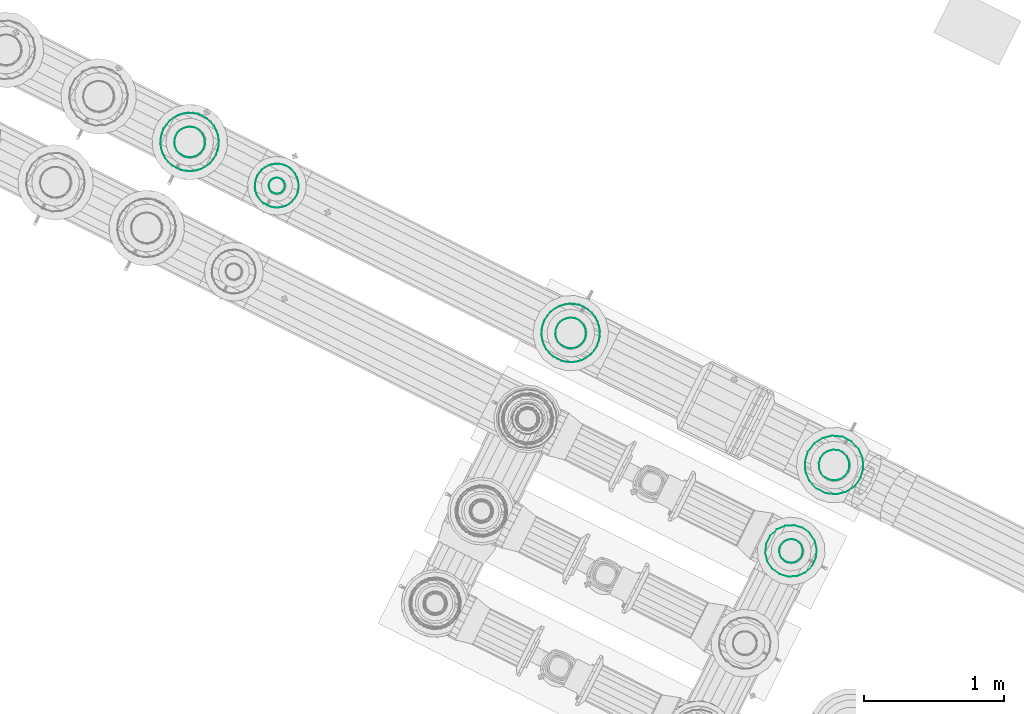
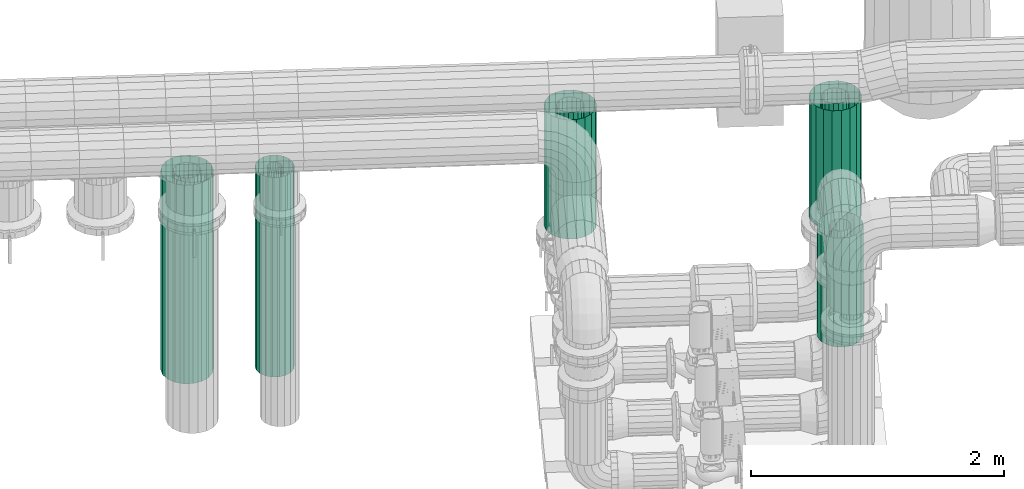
# One storey, part 14 of 152: 5 flow segments.
"""IFC2X3 building model written with IfcOpenShell, lengths in metres."""

from ifc_helpers import new_model, si_unit, derived_unit, direction, frame, origin, place, context, subcontext, project, spatial, face_set, surface_model, source, transform, mapped, material, type_object, type_shapes, element, save


model = new_model("IFC2X3")

# Units and contexts
model_context = context("Model", 3, precision=5.2338327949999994e-05, world=origin(), true_north=direction((0.0, 1.0)))
body_context = subcontext(model_context, "Body", "Model", "MODEL_VIEW")
ifc_project = project(units=[si_unit("LENGTHUNIT", "METRE"), si_unit("AREAUNIT", "SQUARE_METRE"), si_unit("VOLUMEUNIT", "CUBIC_METRE"), si_unit("MASSUNIT", "GRAM", prefix="KILO"), si_unit("PLANEANGLEUNIT", "RADIAN"), derived_unit("THERMALTRANSMITTANCEUNIT", [(si_unit("MASSUNIT", "GRAM", prefix="KILO"), 1), (si_unit("THERMODYNAMICTEMPERATUREUNIT", "KELVIN"), -1), (si_unit("TIMEUNIT", "SECOND"), -3)])], contexts=[model_context])

# Site, building, storey
site_placement = place(None, frame((0.0, 0.0, 0.0), z_axis=(0.0, 0.0, 1.0), x_axis=(0.8939966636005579, -0.4480736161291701, 0.0)))
site = spatial("IfcSite", under=ifc_project, at=site_placement, Name="Default", CompositionType="ELEMENT")
building_placement = place(site_placement, origin())
building = spatial("IfcBuilding", under=site, at=building_placement, CompositionType="ELEMENT")
storey_placement = place(building_placement, frame((0.0, 0.0, 2.7499999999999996)))
storey = spatial("IfcBuildingStorey", under=building, at=storey_placement, Name="1. Obergeschoss", CompositionType="ELEMENT", Elevation=2.7499999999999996)

# Flow segments
ifc_material_1 = material(Name="IfcSurfaceStyle #1741")
distribution_element_type_1 = type_object("IfcDistributionElementType", Name="Stahlrohr nach DIN 2448 224992:Stahlrohr nach DIN 2448 224992", material=ifc_material_1)
shared_shape_1 = source(origin(), body_context, "Body", "SurfaceModel", [
    surface_model("IfcFaceBasedSurfaceModel", [(9.516220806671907, 8.012208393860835, 4.223028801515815), (9.522827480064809, 7.974740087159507, 4.223028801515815), (9.522827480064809, 7.974740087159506, 5.375028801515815), (9.516220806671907, 8.012208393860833, 5.375028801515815), (9.541850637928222, 7.941791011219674, 4.223028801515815), (9.541850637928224, 7.941791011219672, 5.375028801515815), (9.570995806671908, 7.91733531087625, 4.223028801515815), (9.570995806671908, 7.917335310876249, 5.375028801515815), (9.606747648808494, 7.904322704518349, 4.223028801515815), (9.606747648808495, 7.904322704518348, 5.375028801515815), (9.644793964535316, 7.904322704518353, 4.223028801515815), (9.644793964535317, 7.904322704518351, 5.375028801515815), (9.680545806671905, 7.917335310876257, 4.223028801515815), (9.680545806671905, 7.917335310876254, 5.375028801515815), (9.70969097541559, 7.941791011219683, 4.223028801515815), (9.70969097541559, 7.94179101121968, 5.375028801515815), (9.728714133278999, 7.974740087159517, 4.223028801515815), (9.728714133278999, 7.974740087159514, 5.375028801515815), (9.735320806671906, 8.012208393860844, 4.223028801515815), (9.735320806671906, 8.012208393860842, 5.375028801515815), (9.728714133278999, 8.049676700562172, 4.223028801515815), (9.728714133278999, 8.049676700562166, 5.375028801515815), (9.709690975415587, 8.082625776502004, 4.223028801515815), (9.709690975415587, 8.082625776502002, 5.375028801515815), (9.680545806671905, 8.107081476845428, 4.223028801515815), (9.680545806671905, 8.107081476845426, 5.375028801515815), (9.644793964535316, 8.120094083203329, 4.223028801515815), (9.644793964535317, 8.120094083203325, 5.375028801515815), (9.606747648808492, 8.120094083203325, 4.223028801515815), (9.606747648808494, 8.120094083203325, 5.375028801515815), (9.570995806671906, 8.107081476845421, 4.223028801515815), (9.570995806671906, 8.10708147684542, 5.375028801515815), (9.541850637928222, 8.082625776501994, 4.223028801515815), (9.541850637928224, 8.082625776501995, 5.375028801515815), (9.52282748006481, 8.049676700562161, 4.223028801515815), (9.522827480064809, 8.04967670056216, 5.375028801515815), (9.416220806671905, 8.012208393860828, 4.223028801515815), (9.428858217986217, 7.940538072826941, 4.223028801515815), (9.428858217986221, 7.940538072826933, 5.375028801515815), (9.416220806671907, 8.01220839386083, 5.375028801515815), (9.465246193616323, 7.877512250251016, 4.223028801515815), (9.465246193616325, 7.877512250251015, 5.375028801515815), (9.520995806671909, 7.8307327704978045, 4.223028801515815), (9.520995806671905, 7.830732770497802, 5.375028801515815), (9.589382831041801, 7.805841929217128, 4.223028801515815), (9.589382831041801, 7.805841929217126, 5.375028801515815), (9.66215878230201, 7.805841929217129, 4.223028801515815), (9.66215878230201, 7.805841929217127, 5.375028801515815), (9.730545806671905, 7.8307327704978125, 4.223028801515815), (9.730545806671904, 7.83073277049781, 5.375028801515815), (9.786295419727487, 7.877512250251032, 4.223028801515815), (9.786295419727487, 7.877512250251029, 5.375028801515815), (9.822683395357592, 7.940538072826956, 4.223028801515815), (9.822683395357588, 7.9405380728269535, 5.375028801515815), (9.835320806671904, 8.012208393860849, 4.223028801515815), (9.835320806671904, 8.012208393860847, 5.375028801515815), (9.822683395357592, 8.083878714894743, 4.223028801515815), (9.822683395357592, 8.08387871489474, 5.375028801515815), (9.786295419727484, 8.146904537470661, 4.223028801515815), (9.786295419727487, 8.146904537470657, 5.375028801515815), (9.730545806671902, 8.193684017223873, 4.223028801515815), (9.730545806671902, 8.193684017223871, 5.375028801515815), (9.66215878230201, 8.21857485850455, 4.223028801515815), (9.66215878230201, 8.218574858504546, 5.375028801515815), (9.589382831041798, 8.218574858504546, 4.223028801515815), (9.589382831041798, 8.218574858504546, 5.375028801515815), (9.520995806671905, 8.193684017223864, 4.223028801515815), (9.520995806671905, 8.193684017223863, 5.375028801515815), (9.465246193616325, 8.146904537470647, 4.223028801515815), (9.465246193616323, 8.146904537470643, 5.375028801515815), (9.42885821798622, 8.083878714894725, 4.223028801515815), (9.42885821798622, 8.083878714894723, 5.375028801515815)], [face_set([[[0, 1, 2, 3]], [[1, 4, 5, 2]], [[4, 6, 7, 5]], [[6, 8, 9, 7]], [[8, 10, 11, 9]], [[10, 12, 13, 11]], [[12, 14, 15, 13]], [[14, 16, 17, 15]], [[16, 18, 19, 17]], [[18, 20, 21, 19]], [[20, 22, 23, 21]], [[22, 24, 25, 23]], [[24, 26, 27, 25]], [[26, 28, 29, 27]], [[28, 30, 31, 29]], [[30, 32, 33, 31]], [[32, 34, 35, 33]], [[34, 0, 3, 35]], [[36, 37, 38, 39]], [[37, 40, 41, 38]], [[40, 42, 43, 41]], [[42, 44, 45, 43]], [[44, 46, 47, 45]], [[46, 48, 49, 47]], [[48, 50, 51, 49]], [[50, 52, 53, 51]], [[52, 54, 55, 53]], [[54, 56, 57, 55]], [[56, 58, 59, 57]], [[58, 60, 61, 59]], [[60, 62, 63, 61]], [[62, 64, 65, 63]], [[64, 66, 67, 65]], [[66, 68, 69, 67]], [[68, 70, 71, 69]], [[70, 36, 39, 71]]])]),
])
type_shapes(distribution_element_type_1, [shared_shape_1])
flow_segment_1_placement = place(storey_placement, frame((0.0, 0.0, -2.7499999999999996)))
element("IfcFlowSegment", 1, at=flow_segment_1_placement, inside=storey, type_object=distribution_element_type_1, material=ifc_material_1, Name="Stahlrohr nach DIN 2448", ObjectType="Stahlrohr nach DIN 2448", context=body_context, shape_type="MappedRepresentation", body=[
    mapped(shared_shape_1, transform((0.0, 0.0, 0.0), scale=1.0)),
])
distribution_element_type_2 = type_object("IfcDistributionElementType", Name="Stahlrohr nach DIN 2448 225273:Stahlrohr nach DIN 2448 225273", material=ifc_material_1)
shared_shape_2 = source(origin(), body_context, "Body", "SurfaceModel", [
    surface_model("IfcFaceBasedSurfaceModel", [(11.616264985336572, 8.012208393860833, 4.223028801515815), (11.622871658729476, 7.974740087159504, 4.223028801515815), (11.622871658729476, 7.974740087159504, 5.376028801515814), (11.616264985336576, 8.012208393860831, 5.376028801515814), (11.64189481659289, 7.941791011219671, 4.223028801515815), (11.641894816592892, 7.94179101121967, 5.376028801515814), (11.671039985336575, 7.917335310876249, 4.223028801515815), (11.671039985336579, 7.917335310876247, 5.376028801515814), (11.706791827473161, 7.904322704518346, 4.223028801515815), (11.706791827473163, 7.904322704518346, 5.376028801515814), (11.744838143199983, 7.904322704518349, 4.223028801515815), (11.744838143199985, 7.904322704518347, 5.376028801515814), (11.780589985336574, 7.917335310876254, 4.223028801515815), (11.780589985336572, 7.917335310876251, 5.376028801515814), (11.80973515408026, 7.94179101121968, 4.223028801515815), (11.809735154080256, 7.941791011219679, 5.376028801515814), (11.82875831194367, 7.974740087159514, 4.223028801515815), (11.82875831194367, 7.974740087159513, 5.376028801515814), (11.835364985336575, 8.012208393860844, 4.223028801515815), (11.835364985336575, 8.01220839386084, 5.376028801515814), (11.82875831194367, 8.04967670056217, 4.223028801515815), (11.82875831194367, 8.049676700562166, 5.376028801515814), (11.809735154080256, 8.082625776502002, 4.223028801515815), (11.809735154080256, 8.082625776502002, 5.376028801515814), (11.780589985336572, 8.107081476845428, 4.223028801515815), (11.780589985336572, 8.107081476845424, 5.376028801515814), (11.744838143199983, 8.120094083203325, 4.223028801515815), (11.744838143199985, 8.120094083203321, 5.376028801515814), (11.706791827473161, 8.120094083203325, 4.223028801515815), (11.706791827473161, 8.120094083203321, 5.376028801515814), (11.671039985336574, 8.107081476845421, 4.223028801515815), (11.671039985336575, 8.10708147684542, 5.376028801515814), (11.641894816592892, 8.082625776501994, 4.223028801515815), (11.641894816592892, 8.082625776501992, 5.376028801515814), (11.62287165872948, 8.04967670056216, 4.223028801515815), (11.62287165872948, 8.049676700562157, 5.376028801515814), (11.516264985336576, 8.012208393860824, 4.223028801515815), (11.528902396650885, 7.940538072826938, 4.223028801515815), (11.528902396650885, 7.940538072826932, 5.376028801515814), (11.516264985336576, 8.012208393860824, 5.376028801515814), (11.565290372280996, 7.877512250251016, 4.223028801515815), (11.565290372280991, 7.877512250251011, 5.376028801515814), (11.621039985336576, 7.830732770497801, 4.223028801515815), (11.621039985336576, 7.8307327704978, 5.376028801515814), (11.68942700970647, 7.805841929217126, 4.223028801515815), (11.689427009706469, 7.805841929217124, 5.376028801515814), (11.76220296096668, 7.805841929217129, 4.223028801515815), (11.762202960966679, 7.805841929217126, 5.376028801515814), (11.830589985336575, 7.830732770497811, 4.223028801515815), (11.830589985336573, 7.83073277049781, 5.376028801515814), (11.886339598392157, 7.877512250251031, 4.223028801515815), (11.886339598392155, 7.877512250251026, 5.376028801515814), (11.922727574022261, 7.940538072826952, 4.223028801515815), (11.92272757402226, 7.940538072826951, 5.376028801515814), (11.935364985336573, 8.012208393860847, 4.223028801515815), (11.935364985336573, 8.012208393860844, 5.376028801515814), (11.922727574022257, 8.083878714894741, 4.223028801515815), (11.922727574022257, 8.083878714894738, 5.376028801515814), (11.886339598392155, 8.146904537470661, 4.223028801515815), (11.886339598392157, 8.14690453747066, 5.376028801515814), (11.83058998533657, 8.193684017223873, 4.223028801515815), (11.83058998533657, 8.193684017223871, 5.376028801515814), (11.76220296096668, 8.218574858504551, 4.223028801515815), (11.762202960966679, 8.218574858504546, 5.376028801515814), (11.689427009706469, 8.218574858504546, 4.223028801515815), (11.689427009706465, 8.218574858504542, 5.376028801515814), (11.621039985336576, 8.193684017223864, 4.223028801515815), (11.621039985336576, 8.193684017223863, 5.376028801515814), (11.565290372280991, 8.146904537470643, 4.223028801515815), (11.56529037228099, 8.146904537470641, 5.376028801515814), (11.52890239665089, 8.083878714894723, 4.223028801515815), (11.528902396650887, 8.08387871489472, 5.376028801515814)], [face_set([[[0, 1, 2, 3]], [[1, 4, 5, 2]], [[4, 6, 7, 5]], [[6, 8, 9, 7]], [[8, 10, 11, 9]], [[10, 12, 13, 11]], [[12, 14, 15, 13]], [[14, 16, 17, 15]], [[16, 18, 19, 17]], [[18, 20, 21, 19]], [[20, 22, 23, 21]], [[22, 24, 25, 23]], [[24, 26, 27, 25]], [[26, 28, 29, 27]], [[28, 30, 31, 29]], [[30, 32, 33, 31]], [[32, 34, 35, 33]], [[34, 0, 3, 35]], [[36, 37, 38, 39]], [[37, 40, 41, 38]], [[40, 42, 43, 41]], [[42, 44, 45, 43]], [[44, 46, 47, 45]], [[46, 48, 49, 47]], [[48, 50, 51, 49]], [[50, 52, 53, 51]], [[52, 54, 55, 53]], [[54, 56, 57, 55]], [[56, 58, 59, 57]], [[58, 60, 61, 59]], [[60, 62, 63, 61]], [[62, 64, 65, 63]], [[64, 66, 67, 65]], [[66, 68, 69, 67]], [[68, 70, 71, 69]], [[70, 36, 39, 71]]])]),
])
type_shapes(distribution_element_type_2, [shared_shape_2])
flow_segment_2_placement = place(storey_placement, frame((0.0, 0.0, -2.7499999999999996)))
element("IfcFlowSegment", 2, at=flow_segment_2_placement, inside=storey, type_object=distribution_element_type_2, material=ifc_material_1, Name="Stahlrohr nach DIN 2448", ObjectType="Stahlrohr nach DIN 2448", context=body_context, shape_type="MappedRepresentation", body=[
    mapped(shared_shape_2, transform((0.0, 0.0, 0.0), scale=1.0)),
])
ifc_material_2 = material(Name="IfcSurfaceStyle #9317")
distribution_element_type_3 = type_object("IfcDistributionElementType", Name="Stahlrohr nach DIN 2448 238627:Stahlrohr nach DIN 2448 238627", material=ifc_material_2)
shared_shape_3 = source(origin(), body_context, "Body", "SurfaceModel", [
    surface_model("IfcFaceBasedSurfaceModel", [(11.725814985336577, 7.243058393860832, 3.554154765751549), (11.754595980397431, 7.248133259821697, 3.554154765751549), (11.754595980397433, 7.248133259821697, 4.607303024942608), (11.725814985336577, 7.243058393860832, 4.607303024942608), (11.779905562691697, 7.262745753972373, 3.554154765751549), (11.779905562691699, 7.262745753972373, 4.607303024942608), (11.798691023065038, 7.285133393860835, 3.554154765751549), (11.798691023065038, 7.285133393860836, 4.607303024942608), (11.808686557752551, 7.312595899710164, 3.554154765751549), (11.808686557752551, 7.312595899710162, 4.607303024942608), (11.80868655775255, 7.341820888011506, 3.554154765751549), (11.80868655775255, 7.341820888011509, 4.607303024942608), (11.798691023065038, 7.369283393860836, 3.554154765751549), (11.798691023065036, 7.369283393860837, 4.607303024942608), (11.779905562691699, 7.391671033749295, 3.554154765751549), (11.779905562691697, 7.391671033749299, 4.607303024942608), (11.754595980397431, 7.406283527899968, 3.554154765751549), (11.75459598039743, 7.406283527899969, 4.607303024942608), (11.725814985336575, 7.411358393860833, 3.554154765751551), (11.725814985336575, 7.411358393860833, 4.607303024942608), (11.69703399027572, 7.406283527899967, 3.554154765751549), (11.697033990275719, 7.406283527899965, 4.607303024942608), (11.671724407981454, 7.391671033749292, 3.554154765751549), (11.671724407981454, 7.391671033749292, 4.607303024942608), (11.652938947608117, 7.3692833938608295, 3.554154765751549), (11.652938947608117, 7.369283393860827, 4.607303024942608), (11.6429434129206, 7.341820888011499, 3.554154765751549), (11.6429434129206, 7.341820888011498, 4.607303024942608), (11.6429434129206, 7.312595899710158, 3.554154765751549), (11.642943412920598, 7.312595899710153, 4.607303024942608), (11.652938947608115, 7.285133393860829, 3.554154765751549), (11.652938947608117, 7.285133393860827, 4.607303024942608), (11.671724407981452, 7.262745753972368, 3.554154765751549), (11.671724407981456, 7.262745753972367, 4.607303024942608), (11.697033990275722, 7.2481332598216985, 3.554154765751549), (11.697033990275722, 7.248133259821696, 4.607303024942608), (11.725814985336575, 7.14305839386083, 3.554154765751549), (11.78879799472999, 7.154163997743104, 3.554154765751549), (11.788797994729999, 7.154163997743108, 4.607303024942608), (11.72581498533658, 7.1430583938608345, 4.607303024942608), (11.84418432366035, 7.186141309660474, 3.554154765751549), (11.844184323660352, 7.186141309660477, 4.607303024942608), (11.885293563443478, 7.235133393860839, 3.554154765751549), (11.885293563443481, 7.23513339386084, 4.607303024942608), (11.907167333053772, 7.295231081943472, 3.554154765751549), (11.907167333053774, 7.295231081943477, 4.607303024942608), (11.907167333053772, 7.359185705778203, 3.554154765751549), (11.907167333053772, 7.359185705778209, 4.607303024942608), (11.885293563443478, 7.41928339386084, 3.554154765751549), (11.885293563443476, 7.419283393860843, 4.607303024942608), (11.84418432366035, 7.468275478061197, 3.554154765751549), (11.844184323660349, 7.4682754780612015, 4.607303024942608), (11.788797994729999, 7.5002527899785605, 3.554154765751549), (11.78879799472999, 7.500252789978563, 4.607303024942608), (11.725814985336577, 7.511358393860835, 3.554154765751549), (11.725814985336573, 7.511358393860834, 4.607303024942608), (11.662831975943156, 7.500252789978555, 3.554154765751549), (11.66283197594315, 7.500252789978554, 4.607303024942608), (11.607445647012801, 7.468275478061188, 3.554154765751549), (11.607445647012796, 7.4682754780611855, 4.607303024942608), (11.566336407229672, 7.4192833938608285, 3.554154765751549), (11.56633640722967, 7.419283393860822, 4.607303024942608), (11.544462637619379, 7.35918570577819, 3.554154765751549), (11.544462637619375, 7.359185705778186, 4.607303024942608), (11.544462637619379, 7.2952310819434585, 3.554154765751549), (11.544462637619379, 7.295231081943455, 4.607303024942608), (11.56633640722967, 7.235133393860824, 3.554154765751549), (11.566336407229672, 7.235133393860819, 4.607303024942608), (11.607445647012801, 7.186141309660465, 3.554154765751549), (11.607445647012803, 7.186141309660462, 4.607303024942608), (11.662831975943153, 7.154163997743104, 3.554154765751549), (11.662831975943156, 7.154163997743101, 4.607303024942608)], [face_set([[[0, 1, 2, 3]], [[1, 4, 5, 2]], [[4, 6, 7, 5]], [[6, 8, 9, 7]], [[8, 10, 11, 9]], [[10, 12, 13, 11]], [[12, 14, 15, 13]], [[14, 16, 17, 15]], [[16, 18, 19, 17]], [[18, 20, 21, 19]], [[20, 22, 23, 21]], [[22, 24, 25, 23]], [[24, 26, 27, 25]], [[26, 28, 29, 27]], [[28, 30, 31, 29]], [[30, 32, 33, 31]], [[32, 34, 35, 33]], [[34, 0, 3, 35]], [[36, 37, 38, 39]], [[37, 40, 41, 38]], [[40, 42, 43, 41]], [[42, 44, 45, 43]], [[44, 46, 47, 45]], [[46, 48, 49, 47]], [[48, 50, 51, 49]], [[50, 52, 53, 51]], [[52, 54, 55, 53]], [[54, 56, 57, 55]], [[56, 58, 59, 57]], [[58, 60, 61, 59]], [[60, 62, 63, 61]], [[62, 64, 65, 63]], [[64, 66, 67, 65]], [[66, 68, 69, 67]], [[68, 70, 71, 69]], [[70, 36, 39, 71]]])]),
])
type_shapes(distribution_element_type_3, [shared_shape_3])
flow_segment_3_placement = place(storey_placement, frame((0.0, 0.0, -2.7499999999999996)))
element("IfcFlowSegment", 3, at=flow_segment_3_placement, inside=storey, type_object=distribution_element_type_3, material=ifc_material_2, Name="Stahlrohr nach DIN 2448", ObjectType="Stahlrohr nach DIN 2448", context=body_context, shape_type="MappedRepresentation", body=[
    mapped(shared_shape_3, transform((0.0, 0.0, 0.0), scale=1.0)),
])
distribution_element_type_4 = type_object("IfcDistributionElementType", Name="Stahlrohr nach DIN 2448 247501:Stahlrohr nach DIN 2448 247501", material=ifc_material_1)
shared_shape_4 = source(origin(), body_context, "Body", "SurfaceModel", [
    surface_model("IfcFaceBasedSurfaceModel", [(6.697364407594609, 8.012208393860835, 4.868622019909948), (6.690757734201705, 7.974740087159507, 4.868622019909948), (6.690757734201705, 7.974740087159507, 2.95), (6.697364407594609, 8.012208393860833, 2.95), (6.671734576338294, 7.9417910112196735, 4.868622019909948), (6.671734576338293, 7.941791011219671, 2.95), (6.642589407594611, 7.917335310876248, 4.868622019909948), (6.64258940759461, 7.917335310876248, 2.95), (6.606837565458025, 7.904322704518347, 4.868622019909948), (6.606837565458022, 7.904322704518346, 2.95), (6.568791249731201, 7.904322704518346, 4.868622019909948), (6.5687912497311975, 7.904322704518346, 2.95), (6.53303940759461, 7.917335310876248, 4.868622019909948), (6.533039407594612, 7.917335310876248, 2.95), (6.503894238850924, 7.941791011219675, 4.868622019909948), (6.5038942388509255, 7.9417910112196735, 2.95), (6.484871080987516, 7.974740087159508, 4.868622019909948), (6.484871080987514, 7.974740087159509, 2.95), (6.478264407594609, 8.012208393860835, 4.868622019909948), (6.478264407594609, 8.012208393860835, 2.95), (6.484871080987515, 8.049676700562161, 4.868622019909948), (6.484871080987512, 8.049676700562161, 2.95), (6.5038942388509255, 8.082625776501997, 4.868622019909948), (6.503894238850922, 8.082625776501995, 2.95), (6.533039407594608, 8.10708147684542, 4.868622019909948), (6.533039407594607, 8.10708147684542, 2.95), (6.568791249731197, 8.120094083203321, 4.868622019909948), (6.568791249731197, 8.120094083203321, 2.95), (6.60683756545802, 8.120094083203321, 4.868622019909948), (6.60683756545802, 8.120094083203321, 2.95), (6.642589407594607, 8.107081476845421, 4.868622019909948), (6.642589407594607, 8.107081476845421, 2.95), (6.6717345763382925, 8.082625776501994, 4.868622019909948), (6.67173457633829, 8.082625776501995, 2.95), (6.690757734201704, 8.049676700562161, 4.868622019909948), (6.690757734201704, 8.049676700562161, 2.95), (6.797364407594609, 8.012208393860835, 4.868622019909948), (6.7847269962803, 7.940538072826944, 4.868622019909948), (6.7847269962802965, 7.9405380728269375, 2.95), (6.797364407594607, 8.012208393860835, 2.95), (6.748339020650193, 7.877512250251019, 4.868622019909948), (6.7483390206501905, 7.8775122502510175, 2.95), (6.692589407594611, 7.830732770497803, 4.868622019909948), (6.692589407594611, 7.830732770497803, 2.95), (6.624202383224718, 7.805841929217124, 4.868622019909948), (6.624202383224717, 7.805841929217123, 2.95), (6.551426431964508, 7.805841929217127, 4.868622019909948), (6.551426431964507, 7.805841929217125, 2.95), (6.483039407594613, 7.830732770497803, 4.868622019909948), (6.483039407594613, 7.830732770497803, 2.95), (6.427289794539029, 7.877512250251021, 4.868622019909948), (6.427289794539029, 7.877512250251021, 2.95), (6.390901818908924, 7.940538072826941, 4.868622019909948), (6.390901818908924, 7.940538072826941, 2.95), (6.378264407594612, 8.012208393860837, 4.868622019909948), (6.37826440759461, 8.012208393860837, 2.95), (6.390901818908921, 8.083878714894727, 4.868622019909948), (6.390901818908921, 8.08387871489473, 2.95), (6.427289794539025, 8.14690453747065, 4.868622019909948), (6.427289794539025, 8.14690453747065, 2.95), (6.483039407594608, 8.193684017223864, 4.868622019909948), (6.483039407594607, 8.193684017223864, 2.95), (6.5514264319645, 8.218574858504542, 4.868622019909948), (6.5514264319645, 8.218574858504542, 2.95), (6.62420238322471, 8.218574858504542, 4.868622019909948), (6.624202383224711, 8.218574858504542, 2.95), (6.692589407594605, 8.193684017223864, 4.868622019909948), (6.692589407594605, 8.193684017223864, 2.95), (6.7483390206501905, 8.146904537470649, 4.868622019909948), (6.748339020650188, 8.14690453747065, 2.95), (6.784726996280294, 8.083878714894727, 4.868622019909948), (6.784726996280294, 8.083878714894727, 2.95)], [face_set([[[0, 1, 2, 3]], [[1, 4, 5, 2]], [[4, 6, 7, 5]], [[6, 8, 9, 7]], [[8, 10, 11, 9]], [[10, 12, 13, 11]], [[12, 14, 15, 13]], [[14, 16, 17, 15]], [[16, 18, 19, 17]], [[18, 20, 21, 19]], [[20, 22, 23, 21]], [[22, 24, 25, 23]], [[24, 26, 27, 25]], [[26, 28, 29, 27]], [[28, 30, 31, 29]], [[30, 32, 33, 31]], [[32, 34, 35, 33]], [[34, 0, 3, 35]], [[36, 37, 38, 39]], [[37, 40, 41, 38]], [[40, 42, 43, 41]], [[42, 44, 45, 43]], [[44, 46, 47, 45]], [[46, 48, 49, 47]], [[48, 50, 51, 49]], [[50, 52, 53, 51]], [[52, 54, 55, 53]], [[54, 56, 57, 55]], [[56, 58, 59, 57]], [[58, 60, 61, 59]], [[60, 62, 63, 61]], [[62, 64, 65, 63]], [[64, 66, 67, 65]], [[66, 68, 69, 67]], [[68, 70, 71, 69]], [[70, 36, 39, 71]]])]),
])
type_shapes(distribution_element_type_4, [shared_shape_4])
flow_segment_4_placement = place(storey_placement, frame((0.0, 0.0, -2.7499999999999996)))
element("IfcFlowSegment", 4, at=flow_segment_4_placement, inside=storey, type_object=distribution_element_type_4, material=ifc_material_1, Name="Stahlrohr nach DIN 2448", ObjectType="Stahlrohr nach DIN 2448", context=body_context, shape_type="MappedRepresentation", body=[
    mapped(shared_shape_4, transform((0.0, 0.0, 0.0), scale=1.0)),
])
distribution_element_type_5 = type_object("IfcDistributionElementType", Name="Stahlrohr nach DIN 2448 247547:Stahlrohr nach DIN 2448 247547", material=ifc_material_1)
shared_shape_5 = source(origin(), body_context, "Body", "SurfaceModel", [
    surface_model("IfcFaceBasedSurfaceModel", [(7.3397683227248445, 8.012208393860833, 4.878622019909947), (7.336321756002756, 7.992661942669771, 4.878622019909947), (7.336321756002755, 7.992661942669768, 2.95), (7.339768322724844, 8.01220839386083, 2.95), (7.326397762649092, 7.975473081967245, 4.878622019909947), (7.32639776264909, 7.975473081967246, 2.95), (7.311193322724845, 7.962715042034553, 4.878622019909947), (7.31119332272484, 7.962715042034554, 2.95), (7.292542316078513, 7.955926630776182, 4.878622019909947), (7.292542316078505, 7.955926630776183, 2.95), (7.27269432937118, 7.955926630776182, 4.878622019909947), (7.272694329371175, 7.955926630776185, 2.95), (7.254043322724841, 7.9627150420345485, 4.878622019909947), (7.254043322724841, 7.962715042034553, 2.95), (7.238838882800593, 7.975473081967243, 4.878622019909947), (7.238838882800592, 7.97547308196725, 2.95), (7.228914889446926, 7.992661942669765, 4.878622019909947), (7.228914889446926, 7.992661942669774, 2.95), (7.2254683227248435, 8.012208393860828, 4.878622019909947), (7.225468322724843, 8.012208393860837, 2.95), (7.228914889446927, 8.03175484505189, 4.878622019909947), (7.228914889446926, 8.031754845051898, 2.95), (7.238838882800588, 8.048943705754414, 4.878622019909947), (7.238838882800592, 8.048943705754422, 2.95), (7.254043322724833, 8.061701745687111, 4.878622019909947), (7.254043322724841, 8.061701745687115, 2.95), (7.272694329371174, 8.068490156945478, 4.878622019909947), (7.272694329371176, 8.068490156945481, 2.95), (7.292542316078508, 8.068490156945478, 4.878622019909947), (7.292542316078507, 8.068490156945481, 2.95), (7.31119332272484, 8.061701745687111, 4.878622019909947), (7.311193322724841, 8.061701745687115, 2.95), (7.326397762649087, 8.04894370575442, 4.878622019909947), (7.3263977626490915, 8.048943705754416, 2.95), (7.336321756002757, 8.031754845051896, 4.878622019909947), (7.336321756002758, 8.031754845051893, 2.95), (7.439768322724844, 8.012208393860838, 4.878622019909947), (7.430291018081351, 7.9584599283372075, 4.878622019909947), (7.4302910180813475, 7.958459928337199, 2.95), (7.4397683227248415, 8.012208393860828, 2.95), (7.403002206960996, 7.911194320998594, 4.878622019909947), (7.403002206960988, 7.911194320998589, 2.95), (7.361193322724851, 7.876112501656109, 4.878622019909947), (7.36119332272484, 7.876112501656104, 2.95), (7.309907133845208, 7.857445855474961, 4.878622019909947), (7.309907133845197, 7.857445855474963, 2.95), (7.255329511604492, 7.8574458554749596, 4.878622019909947), (7.255329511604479, 7.857445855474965, 2.95), (7.204043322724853, 7.876112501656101, 4.878622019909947), (7.204043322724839, 7.87611250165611, 2.95), (7.162234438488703, 7.911194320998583, 4.878622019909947), (7.1622344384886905, 7.911194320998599, 2.95), (7.13494562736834, 7.958459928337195, 4.878622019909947), (7.134945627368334, 7.958459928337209, 2.95), (7.125468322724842, 8.012208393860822, 4.878622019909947), (7.125468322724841, 8.012208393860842, 2.95), (7.134945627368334, 8.065956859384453, 4.878622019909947), (7.134945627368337, 8.065956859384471, 2.95), (7.162234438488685, 8.113222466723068, 4.878622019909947), (7.162234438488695, 8.113222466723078, 2.95), (7.204043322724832, 8.148304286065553, 4.878622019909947), (7.204043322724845, 8.148304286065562, 2.95), (7.255329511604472, 8.166970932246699, 4.878622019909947), (7.2553295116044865, 8.166970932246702, 2.95), (7.309907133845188, 8.166970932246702, 4.878622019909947), (7.309907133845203, 8.166970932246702, 2.95), (7.361193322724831, 8.148304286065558, 4.878622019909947), (7.3611933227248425, 8.148304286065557, 2.95), (7.403002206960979, 8.113222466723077, 4.878622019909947), (7.4030022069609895, 8.11322246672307, 2.95), (7.430291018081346, 8.065956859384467, 4.878622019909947), (7.430291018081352, 8.065956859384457, 2.95)], [face_set([[[0, 1, 2, 3]], [[1, 4, 5, 2]], [[4, 6, 7, 5]], [[6, 8, 9, 7]], [[8, 10, 11, 9]], [[10, 12, 13, 11]], [[12, 14, 15, 13]], [[14, 16, 17, 15]], [[16, 18, 19, 17]], [[18, 20, 21, 19]], [[20, 22, 23, 21]], [[22, 24, 25, 23]], [[24, 26, 27, 25]], [[26, 28, 29, 27]], [[28, 30, 31, 29]], [[30, 32, 33, 31]], [[32, 34, 35, 33]], [[34, 0, 3, 35]], [[36, 37, 38, 39]], [[37, 40, 41, 38]], [[40, 42, 43, 41]], [[42, 44, 45, 43]], [[44, 46, 47, 45]], [[46, 48, 49, 47]], [[48, 50, 51, 49]], [[50, 52, 53, 51]], [[52, 54, 55, 53]], [[54, 56, 57, 55]], [[56, 58, 59, 57]], [[58, 60, 61, 59]], [[60, 62, 63, 61]], [[62, 64, 65, 63]], [[64, 66, 67, 65]], [[66, 68, 69, 67]], [[68, 70, 71, 69]], [[70, 36, 39, 71]]])]),
])
type_shapes(distribution_element_type_5, [shared_shape_5])
flow_segment_5_placement = place(storey_placement, frame((0.0, 0.0, -2.7499999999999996)))
element("IfcFlowSegment", 5, at=flow_segment_5_placement, inside=storey, type_object=distribution_element_type_5, material=ifc_material_1, Name="Stahlrohr nach DIN 2448", ObjectType="Stahlrohr nach DIN 2448", context=body_context, shape_type="MappedRepresentation", body=[
    mapped(shared_shape_5, transform((0.0, 0.0, 0.0), scale=1.0)),
])

save(model, "model.ifc")
